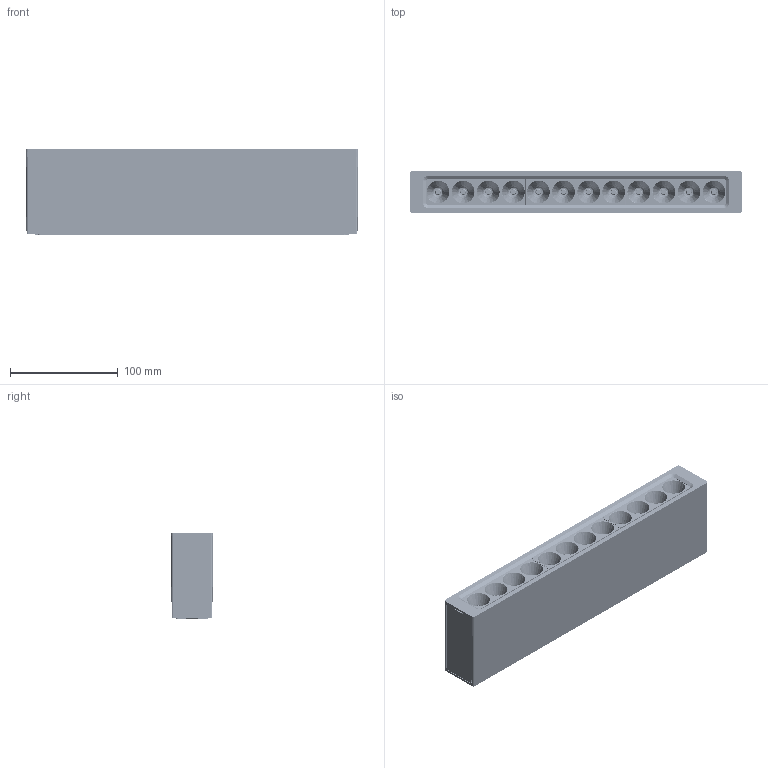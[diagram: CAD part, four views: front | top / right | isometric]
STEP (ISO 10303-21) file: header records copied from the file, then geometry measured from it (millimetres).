
FILE_DESCRIPTION(/* description */ (''),/* implementation_level */ '2;1');
FILE_NAME(/* name */ 'Darcy 12 Cells Assembly - IP20.stp',/* time_stamp */ '2026-02-19T10:54:07+11:00',/* author */ ('Mlight'),/* organization */ (''),/* preprocessor_version */ 'ST-DEVELOPER v20',/* originating_system */ 'Autodesk Inventor 2024',/* authorisation */ '');
FILE_SCHEMA (('AUTOMOTIVE_DESIGN { 1 0 10303 214 3 1 1 }'));
Products named in the file (21): Evelo X 12 Cell SM Darcy; DARCY Board Assembly with Weld Clip; Ledil Darcy PCB; C18696; LED Board 2000 A0; AS 1427 - M3 x 6; Evelo X End Cap Cover Darcy; DARCY-4x1; Copy (1) of C19683_DARCY-SHD_004_MechanicalModel_001; Copy (1) of Mechanical-LENS; Copy (2) of Mechanical-LENS; Copy (3) of Mechanical-LENS; Copy (4) of Mechanical-LENS; Evelo Modular SM Outer Body; Surface Mount Bracket; Evelo X Heat Sink Toshine Revision; AS 1427 - M4 x 10; Magnet; Evelo X IP20 Bracket; AS 1237 - 4; AS 1427 - M4 x 10_1
Assembly tree (55 placements, depth 3):
  Evelo X 12 Cell SM Darcy
    DARCY Board Assembly with Weld Clip
      Ledil Darcy PCB
      C18696  x12
      LED Board 2000 A0  x6
    AS 1427 - M3 x 6  x6
    Evelo X End Cap Cover Darcy  x2
    DARCY-4x1  x3
      Copy (1) of C19683_DARCY-SHD_004_MechanicalModel_001
      Copy (1) of Mechanical-LENS
      Copy (2) of Mechanical-LENS
      Copy (3) of Mechanical-LENS
      Copy (4) of Mechanical-LENS
    Evelo Modular SM Outer Body
    Surface Mount Bracket
    Evelo X Heat Sink Toshine Revision
    AS 1427 - M4 x 10  x6
    Magnet  x4
    Evelo X IP20 Bracket  x2
    AS 1237 - 4  x2
    AS 1427 - M4 x 10_1  x2
Bounding box: 308.82 x 38.92 x 80 mm (x, y, z)
Volume: 274229.1 mm3; surface area: 253234.9 mm2
Topology: 61 solids, 61 shells, 8379 faces, 21604 edges, 13234 vertices
Faces by surface type: bspline 3591, plane 1741, cylinder 1031, cone 1005, torus 826, sphere 185
Full cylindrical faces by diameter (mm): 0.75 x4, 1.1 x6, 1.6 x6, 2.1 x3, 2.693 x6, 3 x6, 3.2 x6, 3.242 x6, 3.571 x8, 4 x8, 4.3 x4, 4.5 x4, 4.8 x4, 7 x6, 8 x3, 10 x4, 10.5 x4
Entity records: 161151 total; most frequent: CARTESIAN_POINT 93401, ORIENTED_EDGE 14908, DIRECTION 12572, EDGE_CURVE 7454, AXIS2_PLACEMENT_3D 5270, VERTEX_POINT 4546, EDGE_LOOP 3078, FACE_OUTER_BOUND 2951
